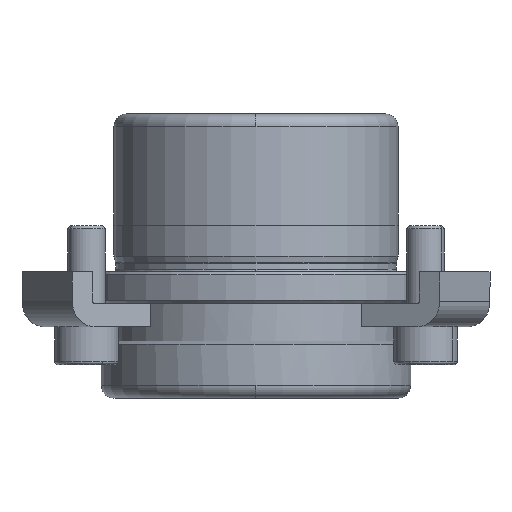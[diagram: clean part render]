
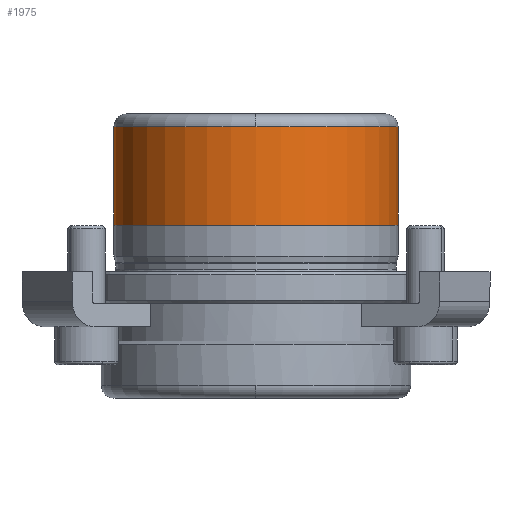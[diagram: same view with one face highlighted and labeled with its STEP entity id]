
A CAD part, front view. The second image highlights one B-rep face of the part: STEP entity #1975.
In plain terms, the highlighted cylindrical face has radius 22.492 mm (diameter 44.984 mm), a partial arc.
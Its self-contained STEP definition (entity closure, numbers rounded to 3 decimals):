
#1111=CARTESIAN_POINT('',(22.492,0.,7.4));
#1112=VERTEX_POINT('',#1111);
#1113=CARTESIAN_POINT('',(22.492,0.,23.));
#1114=VERTEX_POINT('',#1113);
#1115=CARTESIAN_POINT('',(22.492,0.,7.4));
#1116=DIRECTION('',(0.0,0.0,1.0));
#1117=VECTOR('',#1116,15.6);
#1118=LINE('',#1115,#1117);
#1119=EDGE_CURVE('',#1112,#1114,#1118,.T.);
#1121=CARTESIAN_POINT('',(-22.492,0.,7.4));
#1122=VERTEX_POINT('',#1121);
#1130=CARTESIAN_POINT('',(-22.492,0.,23.));
#1131=VERTEX_POINT('',#1130);
#1132=CARTESIAN_POINT('',(-22.492,0.,7.4));
#1133=DIRECTION('',(0.0,0.0,1.0));
#1134=VECTOR('',#1133,15.6);
#1135=LINE('',#1132,#1134);
#1136=EDGE_CURVE('',#1122,#1131,#1135,.T.);
#1172=CARTESIAN_POINT('',(0.,-22.492,23.));
#1173=VERTEX_POINT('',#1172);
#1174=CARTESIAN_POINT('',(0.0,0.,23.));
#1175=DIRECTION('',(0.0,0.0,-1.0));
#1176=DIRECTION('',(1.0,0.0,0.0));
#1177=AXIS2_PLACEMENT_3D('',#1174,#1175,#1176);
#1178=CIRCLE('',#1177,22.492);
#1179=EDGE_CURVE('',#1173,#1131,#1178,.T.);
#1946=CARTESIAN_POINT('',(0.0,0.,23.));
#1947=DIRECTION('',(0.0,0.0,-1.0));
#1948=DIRECTION('',(1.0,0.0,0.0));
#1949=AXIS2_PLACEMENT_3D('',#1946,#1947,#1948);
#1950=CIRCLE('',#1949,22.492);
#1951=EDGE_CURVE('',#1114,#1173,#1950,.T.);
#1957=CARTESIAN_POINT('',(0.0,0.,15.2));
#1958=DIRECTION('',(0.0,0.,-1.0));
#1959=DIRECTION('',(1.0,0.0,0.0));
#1960=AXIS2_PLACEMENT_3D('',#1957,#1958,#1959);
#1961=CYLINDRICAL_SURFACE('',#1960,22.492);
#1962=ORIENTED_EDGE('',*,*,#1119,.T.);
#1963=ORIENTED_EDGE('',*,*,#1951,.T.);
#1964=ORIENTED_EDGE('',*,*,#1179,.T.);
#1965=ORIENTED_EDGE('',*,*,#1136,.F.);
#1966=CARTESIAN_POINT('',(0.0,0.,7.4));
#1967=DIRECTION('',(0.0,0.0,-1.0));
#1968=DIRECTION('',(1.0,0.0,0.0));
#1969=AXIS2_PLACEMENT_3D('',#1966,#1967,#1968);
#1970=CIRCLE('',#1969,22.492);
#1971=EDGE_CURVE('',#1112,#1122,#1970,.T.);
#1972=ORIENTED_EDGE('',*,*,#1971,.F.);
#1973=EDGE_LOOP('',(#1962,#1963,#1964,#1965,#1972));
#1974=FACE_OUTER_BOUND('',#1973,.T.);
#1975=ADVANCED_FACE('',(#1974),#1961,.T.);
